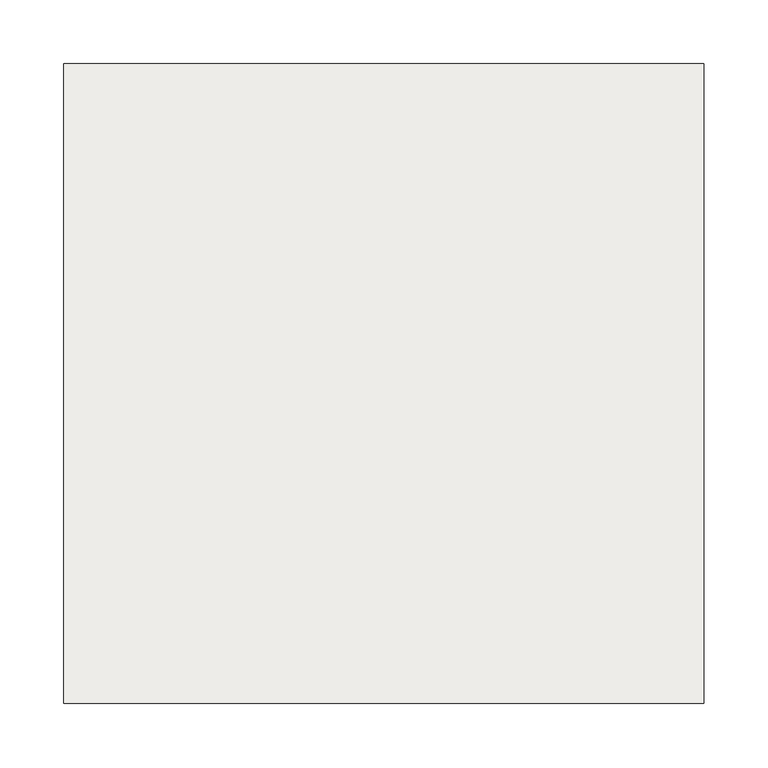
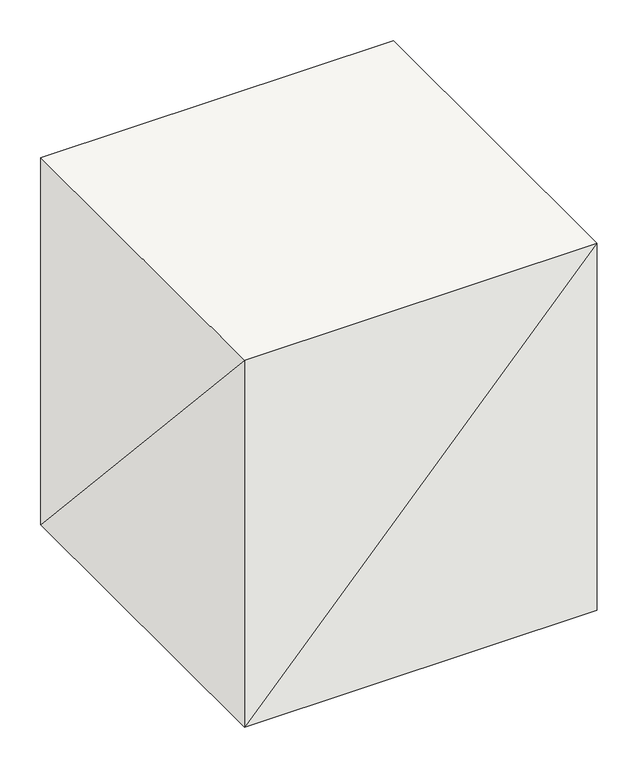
"""IFC4 building model written with IfcOpenShell, lengths in millimetres: slab geometry."""

from ifc_helpers import new_model, si_unit, origin, place, context, project, spatial, faceted_brep, source, transform, mapped, element, save


def slab_a00b09fe(model_context):
    return source(origin(), model_context, "Body", "Brep", [
        faceted_brep([(-250.0, -250.0, -550.0), (-250.0, 250.0, -550.0), (250.0, 250.0, -550.0), (250.0, -250.0, -550.0), (250.0, -250.0, 0.0), (250.0, 250.0, 0.0), (-250.0, 250.0, 0.0), (-250.0, -250.0, 0.0)], [[[0, 1, 2, 3]], [[4, 5, 6, 7]], [[4, 3, 5]], [[3, 2, 5]], [[5, 2, 6]], [[2, 1, 6]], [[6, 1, 7]], [[1, 0, 7]], [[7, 0, 4]], [[0, 3, 4]]]),
    ])


if __name__ == "__main__":
    model = new_model("IFC4")
    model_context = context("Model", 3, world=origin())
    ifc_project = project(units=[si_unit("LENGTHUNIT", "METRE", prefix="MILLI")], contexts=[model_context])
    site = spatial("IfcSite", under=ifc_project)
    building = spatial("IfcBuilding", under=site)
    placement = place(None, origin())
    slab_shape = slab_a00b09fe(model_context)
    element("IfcSlab", 1, at=placement, inside=building, context=model_context, shape_type="MappedRepresentation", body=[
        mapped(slab_shape, transform((0.0, 0.0, 0.0), x_axis=(1.0, 0.0, 0.0), y_axis=(0.0, 1.0, 0.0), z_axis=(0.0, 0.0, 1.0))),
    ])
    save(model, "model.ifc")
